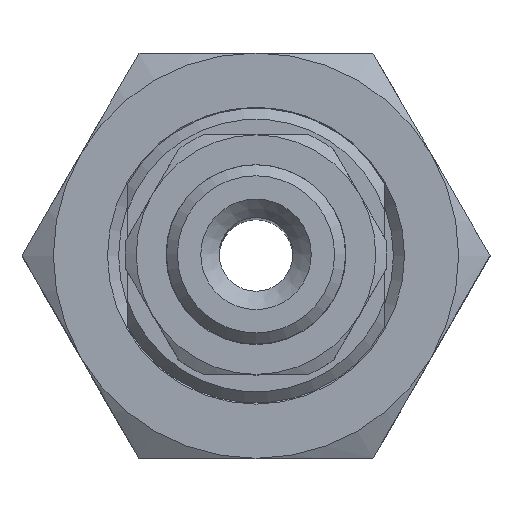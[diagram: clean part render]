
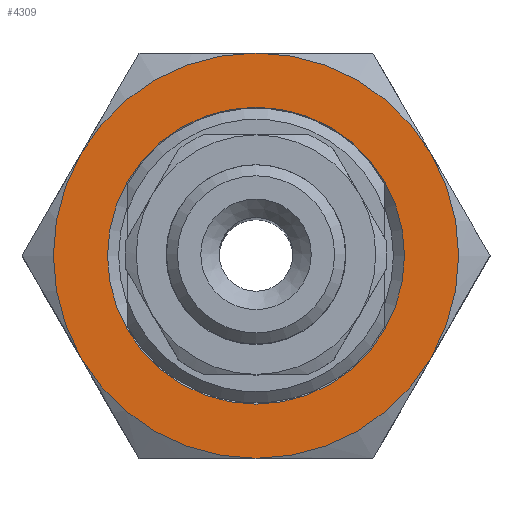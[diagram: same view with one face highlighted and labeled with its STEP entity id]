
A CAD part, top view. The second image highlights one B-rep face of the part: STEP entity #4309.
In plain terms, the highlighted planar face has unit normal (0, 0, 1).
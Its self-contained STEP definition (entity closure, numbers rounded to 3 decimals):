
#3839=CARTESIAN_POINT('',(9.526,-5.5,5.0));
#3840=VERTEX_POINT('',#3839);
#3893=CARTESIAN_POINT('',(9.526,5.5,5.0));
#3894=VERTEX_POINT('',#3893);
#3940=CARTESIAN_POINT('',(0.0,11.,5.0));
#3941=VERTEX_POINT('',#3940);
#3978=CARTESIAN_POINT('',(-9.526,5.5,5.0));
#3979=VERTEX_POINT('',#3978);
#3993=CARTESIAN_POINT('',(0.0,0.0,5.0));
#3994=DIRECTION('',(0.0,0.0,1.0));
#3995=DIRECTION('',(0.0,1.0,0.0));
#3996=AXIS2_PLACEMENT_3D('',#3993,#3994,#3995);
#3997=CIRCLE('',#3996,11.);
#3998=EDGE_CURVE('',#3941,#3979,#3997,.T.);
#4010=CARTESIAN_POINT('',(0.0,0.0,5.0));
#4011=DIRECTION('',(0.0,0.0,1.0));
#4012=DIRECTION('',(0.0,1.0,0.0));
#4013=AXIS2_PLACEMENT_3D('',#4010,#4011,#4012);
#4014=CIRCLE('',#4013,11.);
#4015=EDGE_CURVE('',#3894,#3941,#4014,.T.);
#4027=CARTESIAN_POINT('',(0.0,0.0,5.0));
#4028=DIRECTION('',(0.0,0.0,1.0));
#4029=DIRECTION('',(0.0,1.0,0.0));
#4030=AXIS2_PLACEMENT_3D('',#4027,#4028,#4029);
#4031=CIRCLE('',#4030,11.);
#4032=EDGE_CURVE('',#3840,#3894,#4031,.T.);
#4042=CARTESIAN_POINT('',(0.,-11.,5.0));
#4043=VERTEX_POINT('',#4042);
#4058=CARTESIAN_POINT('',(0.0,0.0,5.0));
#4059=DIRECTION('',(0.0,0.0,1.0));
#4060=DIRECTION('',(0.0,1.0,0.0));
#4061=AXIS2_PLACEMENT_3D('',#4058,#4059,#4060);
#4062=CIRCLE('',#4061,11.);
#4063=EDGE_CURVE('',#4043,#3840,#4062,.T.);
#4088=CARTESIAN_POINT('',(-9.526,-5.5,5.0));
#4089=VERTEX_POINT('',#4088);
#4090=CARTESIAN_POINT('',(0.0,0.0,5.0));
#4091=DIRECTION('',(0.0,0.0,1.0));
#4092=DIRECTION('',(0.0,1.0,0.0));
#4093=AXIS2_PLACEMENT_3D('',#4090,#4091,#4092);
#4094=CIRCLE('',#4093,11.);
#4095=EDGE_CURVE('',#4089,#4043,#4094,.T.);
#4133=CARTESIAN_POINT('',(0.0,0.0,5.0));
#4134=DIRECTION('',(0.0,0.0,1.0));
#4135=DIRECTION('',(0.0,1.0,0.0));
#4136=AXIS2_PLACEMENT_3D('',#4133,#4134,#4135);
#4137=CIRCLE('',#4136,11.);
#4138=EDGE_CURVE('',#3979,#4089,#4137,.T.);
#4281=CARTESIAN_POINT('',(8.059,0.,5.0));
#4282=VERTEX_POINT('',#4281);
#4283=CARTESIAN_POINT('',(0.,0.,5.0));
#4284=DIRECTION('',(0.0,0.0,1.0));
#4285=DIRECTION('',(-1.0,0.0,0.0));
#4286=AXIS2_PLACEMENT_3D('',#4283,#4284,#4285);
#4287=CIRCLE('',#4286,8.058);
#4288=EDGE_CURVE('',#4282,#4282,#4287,.T.);
#4293=CARTESIAN_POINT('',(0.,0.,5.0));
#4294=DIRECTION('',(0.0,0.0,1.0));
#4295=DIRECTION('',(1.0,0.0,0.0));
#4296=AXIS2_PLACEMENT_3D('',#4293,#4294,#4295);
#4297=PLANE('',#4296);
#4298=ORIENTED_EDGE('',*,*,#4138,.T.);
#4299=ORIENTED_EDGE('',*,*,#4095,.T.);
#4300=ORIENTED_EDGE('',*,*,#4063,.T.);
#4301=ORIENTED_EDGE('',*,*,#4032,.T.);
#4302=ORIENTED_EDGE('',*,*,#4015,.T.);
#4303=ORIENTED_EDGE('',*,*,#3998,.T.);
#4304=EDGE_LOOP('',(#4298,#4299,#4300,#4301,#4302,#4303));
#4305=FACE_OUTER_BOUND('',#4304,.T.);
#4306=ORIENTED_EDGE('',*,*,#4288,.F.);
#4307=EDGE_LOOP('',(#4306));
#4308=FACE_BOUND('',#4307,.T.);
#4309=ADVANCED_FACE('',(#4305,#4308),#4297,.T.);
